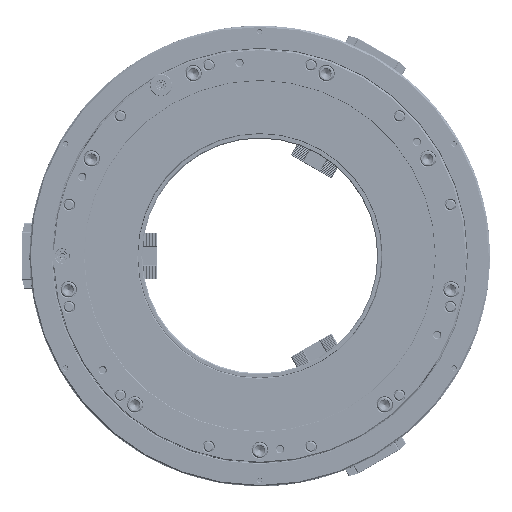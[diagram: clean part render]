
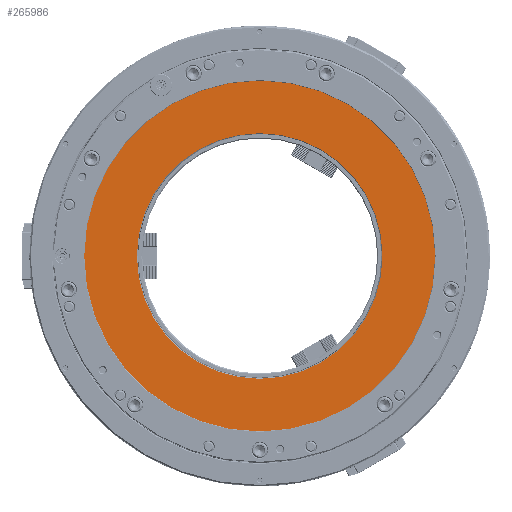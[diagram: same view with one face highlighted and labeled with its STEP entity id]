
A CAD part, left-side view. The second image highlights one B-rep face of the part: STEP entity #265986.
In plain terms, the highlighted planar face has unit normal (-1, 0, 0).
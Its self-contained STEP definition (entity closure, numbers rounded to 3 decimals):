
#10812 = DIRECTION ( 'NONE',  ( 0., 0., 1. ) ) ;
#17270 = VERTEX_POINT ( 'NONE', #274998 ) ;
#18749 = EDGE_CURVE ( 'NONE', #24381, #72022, #49392, .T. ) ;
#20933 = DIRECTION ( 'NONE',  ( 0., 0., 1. ) ) ;
#24381 = VERTEX_POINT ( 'NONE', #229541 ) ;
#25401 = DIRECTION ( 'NONE',  ( 1., 0., 0. ) ) ;
#28372 = DIRECTION ( 'NONE',  ( 0., 0., 1. ) ) ;
#32062 = AXIS2_PLACEMENT_3D ( 'NONE', #96499, #318448, #20933 ) ;
#38231 = CIRCLE ( 'NONE', #223110, 196. ) ;
#49392 = CIRCLE ( 'NONE', #254943, 196. ) ;
#72022 = VERTEX_POINT ( 'NONE', #226495 ) ;
#86756 = ORIENTED_EDGE ( 'NONE', *, *, #192170, .F. ) ;
#89637 = VERTEX_POINT ( 'NONE', #183223 ) ;
#94446 = PLANE ( 'NONE',  #168813 ) ;
#96471 = DIRECTION ( 'NONE',  ( 1., 0., 0. ) ) ;
#96499 = CARTESIAN_POINT ( 'NONE',  ( -20., 0., 0. ) ) ;
#106648 = ORIENTED_EDGE ( 'NONE', *, *, #18749, .T. ) ;
#136190 = CARTESIAN_POINT ( 'NONE',  ( -20., 0., 0. ) ) ;
#152257 = CARTESIAN_POINT ( 'NONE',  ( -20., 0., 0. ) ) ;
#168471 = CARTESIAN_POINT ( 'NONE',  ( -20., 196., 0. ) ) ;
#168813 = AXIS2_PLACEMENT_3D ( 'NONE', #168471, #317991, #195733 ) ;
#170033 = FACE_OUTER_BOUND ( 'NONE', #259595, .T. ) ;
#170794 = CIRCLE ( 'NONE', #32062, 280. ) ;
#183223 = CARTESIAN_POINT ( 'NONE',  ( -20., 0., 280. ) ) ;
#192170 = EDGE_CURVE ( 'NONE', #89637, #17270, #170794, .T. ) ;
#195733 = DIRECTION ( 'NONE',  ( 0., 0., -1. ) ) ;
#198204 = ORIENTED_EDGE ( 'NONE', *, *, #204584, .F. ) ;
#203897 = CIRCLE ( 'NONE', #214230, 280. ) ;
#204584 = EDGE_CURVE ( 'NONE', #17270, #89637, #203897, .T. ) ;
#214230 = AXIS2_PLACEMENT_3D ( 'NONE', #248982, #25401, #223234 ) ;
#223110 = AXIS2_PLACEMENT_3D ( 'NONE', #152257, #96471, #28372 ) ;
#223234 = DIRECTION ( 'NONE',  ( 0., 0., 1. ) ) ;
#226495 = CARTESIAN_POINT ( 'NONE',  ( -20., 0., -196. ) ) ;
#229541 = CARTESIAN_POINT ( 'NONE',  ( -20., 0., 196. ) ) ;
#234316 = DIRECTION ( 'NONE',  ( 1., 0., 0. ) ) ;
#248982 = CARTESIAN_POINT ( 'NONE',  ( -20., 0., 0. ) ) ;
#254943 = AXIS2_PLACEMENT_3D ( 'NONE', #136190, #234316, #10812 ) ;
#259595 = EDGE_LOOP ( 'NONE', ( #86756, #198204 ) ) ;
#265986 = ADVANCED_FACE ( 'NONE', ( #170033, #297021 ), #94446, .F. ) ;
#268731 = EDGE_LOOP ( 'NONE', ( #106648, #314553 ) ) ;
#274998 = CARTESIAN_POINT ( 'NONE',  ( -20., 0., -280. ) ) ;
#297021 = FACE_BOUND ( 'NONE', #268731, .T. ) ;
#314385 = EDGE_CURVE ( 'NONE', #72022, #24381, #38231, .T. ) ;
#314553 = ORIENTED_EDGE ( 'NONE', *, *, #314385, .T. ) ;
#317991 = DIRECTION ( 'NONE',  ( 1., 0., 0. ) ) ;
#318448 = DIRECTION ( 'NONE',  ( 1., 0., 0. ) ) ;
